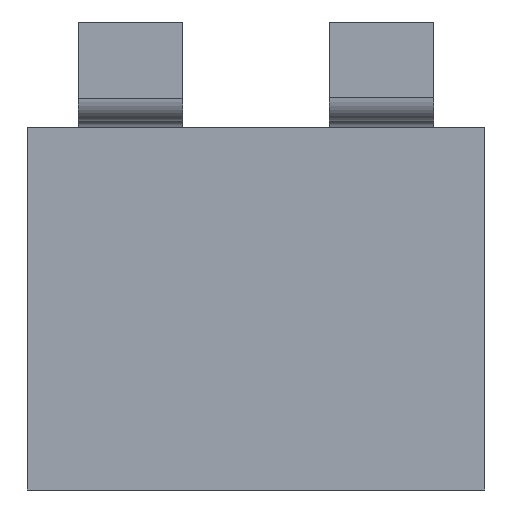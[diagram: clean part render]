
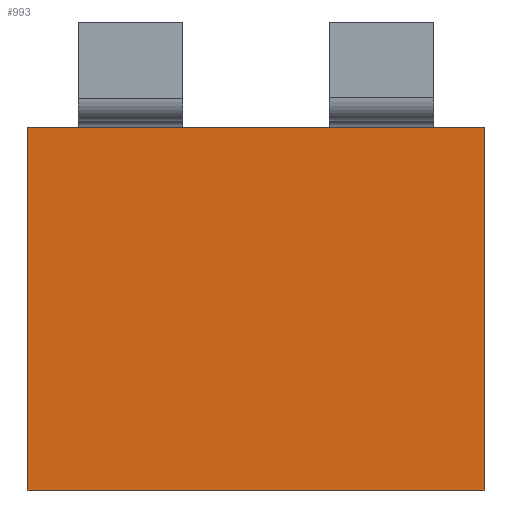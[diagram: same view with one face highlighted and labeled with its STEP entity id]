
A CAD part, front view. The second image highlights one B-rep face of the part: STEP entity #993.
In plain terms, the highlighted planar face has unit normal (0, -1, 0).
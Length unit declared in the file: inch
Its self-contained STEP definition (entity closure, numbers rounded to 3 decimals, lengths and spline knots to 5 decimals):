
#15 = DIRECTION ( 'NONE',  ( 0., -1., 0. ) ) ;
#75 = VERTEX_POINT ( 'NONE', #2074 ) ;
#84 = EDGE_CURVE ( 'NONE', #1017, #75, #2344, .T. ) ;
#177 = CARTESIAN_POINT ( 'NONE',  ( 0.63527, -1.89322, 1.36905 ) ) ;
#249 = CARTESIAN_POINT ( 'NONE',  ( -0.05371, -1.89322, 0.82377 ) ) ;
#261 = DIRECTION ( 'NONE',  ( 0., 0., 1. ) ) ;
#272 = EDGE_CURVE ( 'NONE', #1868, #1017, #826, .T. ) ;
#351 = CARTESIAN_POINT ( 'NONE',  ( -0.05371, -1.89322, 0.82377 ) ) ;
#391 = LINE ( 'NONE', #177, #1014 ) ;
#429 = EDGE_LOOP ( 'NONE', ( #452, #1219, #2382, #1804 ) ) ;
#452 = ORIENTED_EDGE ( 'NONE', *, *, #1788, .F. ) ;
#526 = AXIS2_PLACEMENT_3D ( 'NONE', #1249, #15, #644 ) ;
#557 = CARTESIAN_POINT ( 'NONE',  ( -0.05371, -1.89322, 1.36905 ) ) ;
#644 = DIRECTION ( 'NONE',  ( 0., 0., -1. ) ) ;
#754 = VERTEX_POINT ( 'NONE', #1272 ) ;
#765 = VECTOR ( 'NONE', #261, 39.37008 ) ;
#826 = LINE ( 'NONE', #351, #989 ) ;
#878 = VECTOR ( 'NONE', #1574, 39.37008 ) ;
#933 = DIRECTION ( 'NONE',  ( -1., 0., 0. ) ) ;
#951 = LINE ( 'NONE', #557, #878 ) ;
#989 = VECTOR ( 'NONE', #933, 39.37008 ) ;
#993 = ADVANCED_FACE ( 'NONE', ( #2283 ), #1049, .T. ) ;
#1014 = VECTOR ( 'NONE', #1400, 39.37008 ) ;
#1017 = VERTEX_POINT ( 'NONE', #249 ) ;
#1049 = PLANE ( 'NONE',  #526 ) ;
#1219 = ORIENTED_EDGE ( 'NONE', *, *, #2410, .F. ) ;
#1249 = CARTESIAN_POINT ( 'NONE',  ( 0.29078, -1.89322, 1.09641 ) ) ;
#1272 = CARTESIAN_POINT ( 'NONE',  ( 0.63527, -1.89322, 1.36905 ) ) ;
#1325 = CARTESIAN_POINT ( 'NONE',  ( 0.63527, -1.89322, 0.82377 ) ) ;
#1400 = DIRECTION ( 'NONE',  ( 0., 0., -1. ) ) ;
#1492 = CARTESIAN_POINT ( 'NONE',  ( -0.05371, -1.89322, 1.36905 ) ) ;
#1574 = DIRECTION ( 'NONE',  ( 1., 0., 0. ) ) ;
#1788 = EDGE_CURVE ( 'NONE', #754, #1868, #391, .T. ) ;
#1804 = ORIENTED_EDGE ( 'NONE', *, *, #272, .F. ) ;
#1868 = VERTEX_POINT ( 'NONE', #1325 ) ;
#2074 = CARTESIAN_POINT ( 'NONE',  ( -0.05371, -1.89322, 1.36905 ) ) ;
#2283 = FACE_OUTER_BOUND ( 'NONE', #429, .T. ) ;
#2344 = LINE ( 'NONE', #1492, #765 ) ;
#2382 = ORIENTED_EDGE ( 'NONE', *, *, #84, .F. ) ;
#2410 = EDGE_CURVE ( 'NONE', #75, #754, #951, .T. ) ;
